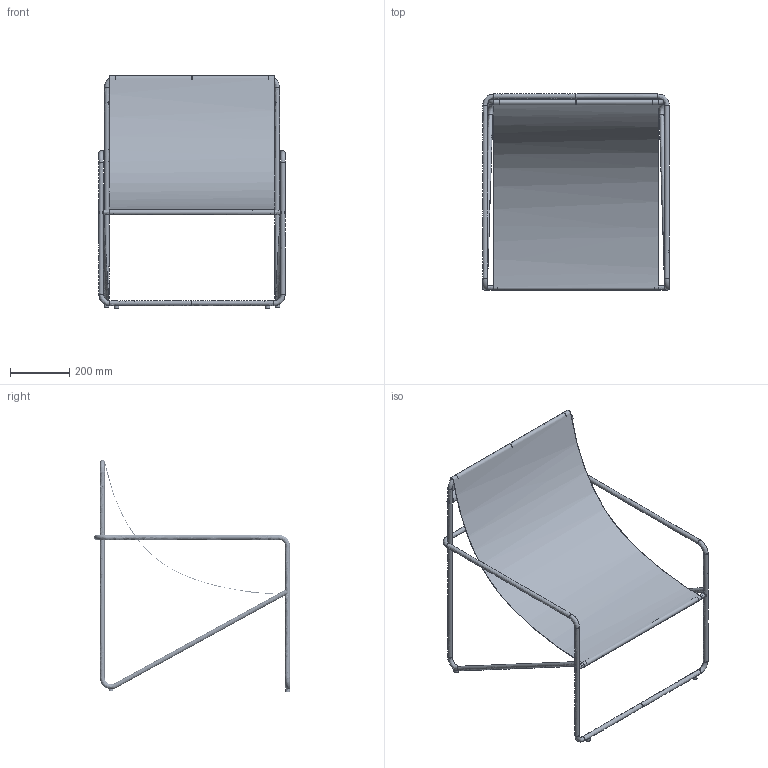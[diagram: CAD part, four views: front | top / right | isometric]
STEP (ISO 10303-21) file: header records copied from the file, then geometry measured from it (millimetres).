
FILE_DESCRIPTION(/* description */ (''),/* implementation_level */ '2;1');
FILE_NAME(/* name */ 'D3GLS8~H',/* time_stamp */ '2020-05-28T14:47:19+02:00',/* author */ (''),/* organization */ (''),/* preprocessor_version */ 'ST-DEVELOPER v16.5',/* originating_system */ '',/* authorisation */ '');
FILE_SCHEMA (('AUTOMOTIVE_DESIGN'));
Length unit declared in the file: millimetre
Products named in the file (1): Document
Bounding box: 631.99 x 662.58 x 784.33 mm (x, y, z)
Volume: 1875466.2 mm3; surface area: 1959544.9 mm2
Topology: 12 solids, 20 shells, 668 faces, 1939 edges, 1230 vertices
Faces by surface type: bspline 604, plane 64
Entity records: 72737 total; most frequent: CARTESIAN_POINT 61740, ORIENTED_EDGE 3780, EDGE_CURVE 1930, B_SPLINE_CURVE_WITH_KNOTS 1476, VERTEX_POINT 1228, EDGE_LOOP 712, ADVANCED_FACE 668, FACE_OUTER_BOUND 668
